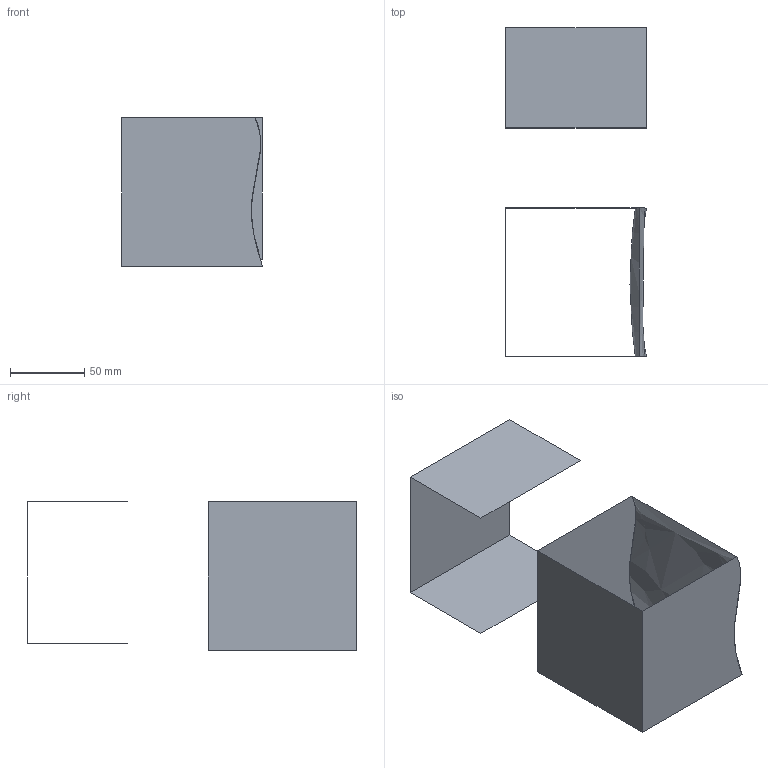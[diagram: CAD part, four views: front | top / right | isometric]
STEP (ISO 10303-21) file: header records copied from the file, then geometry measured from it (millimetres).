
FILE_DESCRIPTION (( 'STEP AP203' ), '1' );
FILE_NAME ('15.1.STEP', '2025-10-14T18:27:15', ( '' ), ( '' ), 'SwSTEP 2.0', 'SolidWorks 2025', '' );
FILE_SCHEMA (( 'CONFIG_CONTROL_DESIGN' ));
Length unit declared in the file: millimetre
Products named in the file (1): 15.1
Bounding box: 95 x 221.58 x 100 mm (x, y, z)
Surface area: 60278.4 mm2 (no closed solid volume)
Topology: 0 solids, 5 shells, 7 faces, 26 edges, 24 vertices
Faces by surface type: plane 6, bspline 1
Entity records: 376 total; most frequent: CARTESIAN_POINT 96, DIRECTION 35, ORIENTED_EDGE 28, EDGE_CURVE 26, VERTEX_POINT 24, VECTOR 21, LINE 21, PERSON_AND_ORGANIZATION 8
